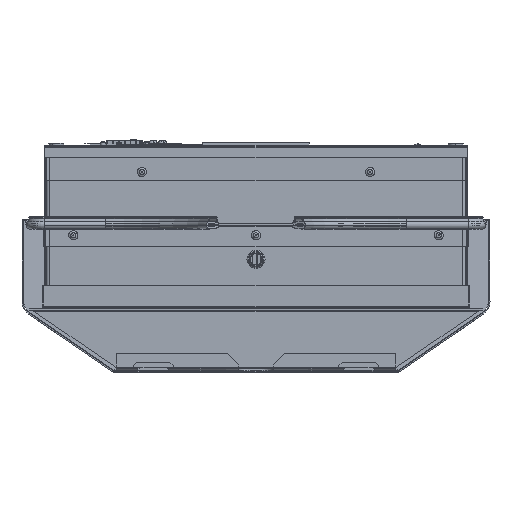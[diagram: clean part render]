
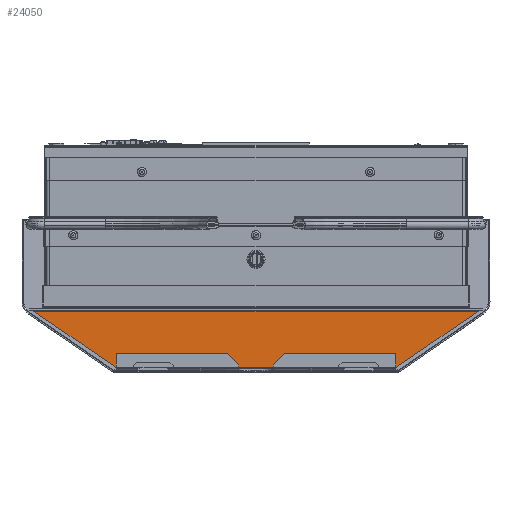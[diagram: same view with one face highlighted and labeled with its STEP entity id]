
A CAD part, front view. The second image highlights one B-rep face of the part: STEP entity #24050.
In plain terms, the highlighted planar face has unit normal (0, -1, 0).
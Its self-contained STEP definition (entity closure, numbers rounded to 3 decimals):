
#18108 = LINE ( 'NONE', #81659, #77395 ) ;
#18113 = LINE ( 'NONE', #81678, #77413 ) ;
#18118 = LINE ( 'NONE', #81691, #77427 ) ;
#18127 = LINE ( 'NONE', #81712, #77448 ) ;
#18129 = LINE ( 'NONE', #81719, #77454 ) ;
#18150 = LINE ( 'NONE', #81803, #77533 ) ;
#18153 = LINE ( 'NONE', #81815, #77539 ) ;
#18155 = LINE ( 'NONE', #81819, #77543 ) ;
#18156 = LINE ( 'NONE', #81821, #77546 ) ;
#18157 = LINE ( 'NONE', #81823, #77548 ) ;
#18158 = LINE ( 'NONE', #81825, #77550 ) ;
#18159 = LINE ( 'NONE', #81827, #77552 ) ;
#24050 = ADVANCED_FACE ( 'NONE', ( #57200 ), #25835, .F. ) ;
#25835 = PLANE ( 'NONE',  #64947 ) ;
#25836 = CARTESIAN_POINT ( 'NONE',  ( -36.278, 24.236, -80.642 ) ) ;
#25837 = DIRECTION ( 'NONE',  ( 0., 1., 0. ) ) ;
#25838 = DIRECTION ( 'NONE',  ( 1., 0., 0. ) ) ;
#39421 = CARTESIAN_POINT ( 'NONE',  ( -164.528, 24.236, -132.642 ) ) ;
#39423 = CARTESIAN_POINT ( 'NONE',  ( -304.528, 24.236, -132.642 ) ) ;
#39429 = CARTESIAN_POINT ( 'NONE',  ( -304.528, 24.236, -132.142 ) ) ;
#39434 = CARTESIAN_POINT ( 'NONE',  ( -344.528, 24.236, -132.142 ) ) ;
#39435 = CARTESIAN_POINT ( 'NONE',  ( -344.528, 24.236, -132.642 ) ) ;
#39442 = CARTESIAN_POINT ( 'NONE',  ( -357.028, 24.236, -132.642 ) ) ;
#39443 = CARTESIAN_POINT ( 'NONE',  ( -429.136, 24.236, -83.142 ) ) ;
#44448 = EDGE_LOOP ( 'NONE', ( #68092, #68094, #68093, #68096, #68095, #68097, #68098, #68099, #68101, #68102, #68100, #68104 ) ) ;
#57126 = EDGE_CURVE ( 'NONE', #91592, #91594, #18108, .T. ) ;
#57144 = EDGE_CURVE ( 'NONE', #91600, #91594, #18113, .T. ) ;
#57158 = EDGE_CURVE ( 'NONE', #91606, #91605, #18118, .T. ) ;
#57181 = EDGE_CURVE ( 'NONE', #91606, #91613, #18127, .T. ) ;
#57188 = EDGE_CURVE ( 'NONE', #91613, #91614, #18129, .T. ) ;
#57200 = FACE_OUTER_BOUND ( 'NONE', #44448, .T. ) ;
#57264 = EDGE_CURVE ( 'NONE', #91614, #61068, #18150, .T. ) ;
#57274 = EDGE_CURVE ( 'NONE', #61068, #61071, #18153, .T. ) ;
#57278 = EDGE_CURVE ( 'NONE', #61071, #61072, #18155, .T. ) ;
#57280 = EDGE_CURVE ( 'NONE', #61072, #61073, #18156, .T. ) ;
#57283 = EDGE_CURVE ( 'NONE', #91600, #91605, #18157, .T. ) ;
#57285 = EDGE_CURVE ( 'NONE', #61074, #91592, #18158, .T. ) ;
#57287 = EDGE_CURVE ( 'NONE', #61073, #61074, #18159, .T. ) ;
#61068 = VERTEX_POINT ( 'NONE', #83336 ) ;
#61071 = VERTEX_POINT ( 'NONE', #83339 ) ;
#61072 = VERTEX_POINT ( 'NONE', #83340 ) ;
#61073 = VERTEX_POINT ( 'NONE', #83341 ) ;
#61074 = VERTEX_POINT ( 'NONE', #83342 ) ;
#64947 = AXIS2_PLACEMENT_3D ( 'NONE', #25836, #25837, #25838 ) ;
#68092 = ORIENTED_EDGE ( 'NONE', *, *, #57280, .F. ) ;
#68093 = ORIENTED_EDGE ( 'NONE', *, *, #57274, .F. ) ;
#68094 = ORIENTED_EDGE ( 'NONE', *, *, #57278, .F. ) ;
#68095 = ORIENTED_EDGE ( 'NONE', *, *, #57188, .F. ) ;
#68096 = ORIENTED_EDGE ( 'NONE', *, *, #57264, .F. ) ;
#68097 = ORIENTED_EDGE ( 'NONE', *, *, #57181, .F. ) ;
#68098 = ORIENTED_EDGE ( 'NONE', *, *, #57158, .T. ) ;
#68099 = ORIENTED_EDGE ( 'NONE', *, *, #57283, .F. ) ;
#68100 = ORIENTED_EDGE ( 'NONE', *, *, #57285, .F. ) ;
#68101 = ORIENTED_EDGE ( 'NONE', *, *, #57144, .T. ) ;
#68102 = ORIENTED_EDGE ( 'NONE', *, *, #57126, .F. ) ;
#68104 = ORIENTED_EDGE ( 'NONE', *, *, #57287, .F. ) ;
#77395 = VECTOR ( 'NONE', #81660, 1000. ) ;
#77413 = VECTOR ( 'NONE', #81679, 1000. ) ;
#77427 = VECTOR ( 'NONE', #81692, 1000. ) ;
#77448 = VECTOR ( 'NONE', #81713, 1000. ) ;
#77454 = VECTOR ( 'NONE', #81720, 1000. ) ;
#77533 = VECTOR ( 'NONE', #81804, 1000. ) ;
#77539 = VECTOR ( 'NONE', #81816, 1000. ) ;
#77543 = VECTOR ( 'NONE', #81820, 1000. ) ;
#77546 = VECTOR ( 'NONE', #81822, 1000. ) ;
#77548 = VECTOR ( 'NONE', #81824, 1000. ) ;
#77550 = VECTOR ( 'NONE', #81826, 1000. ) ;
#77552 = VECTOR ( 'NONE', #81828, 1000. ) ;
#81659 = CARTESIAN_POINT ( 'NONE',  ( -357.028, 24.236, -132.642 ) ) ;
#81660 = DIRECTION ( 'NONE',  ( -1., 0., 0. ) ) ;
#81678 = CARTESIAN_POINT ( 'NONE',  ( -304.528, 24.236, -80.642 ) ) ;
#81679 = DIRECTION ( 'NONE',  ( 0., 0., -1. ) ) ;
#81691 = CARTESIAN_POINT ( 'NONE',  ( -344.528, 24.236, -80.642 ) ) ;
#81692 = DIRECTION ( 'NONE',  ( 0., 0., 1. ) ) ;
#81712 = CARTESIAN_POINT ( 'NONE',  ( -357.028, 24.236, -132.642 ) ) ;
#81713 = DIRECTION ( 'NONE',  ( -1., 0., 0. ) ) ;
#81719 = CARTESIAN_POINT ( 'NONE',  ( -432.778, 24.236, -80.642 ) ) ;
#81720 = DIRECTION ( 'NONE',  ( -0.824, 0., 0.566 ) ) ;
#81803 = CARTESIAN_POINT ( 'NONE',  ( -432.778, 24.236, -83.142 ) ) ;
#81804 = DIRECTION ( 'NONE',  ( 1., 0., 0. ) ) ;
#81815 = CARTESIAN_POINT ( 'NONE',  ( -36.278, 24.236, -80.642 ) ) ;
#81816 = DIRECTION ( 'NONE',  ( -0.824, 0., -0.566 ) ) ;
#81819 = CARTESIAN_POINT ( 'NONE',  ( -357.028, 24.236, -132.642 ) ) ;
#81820 = DIRECTION ( 'NONE',  ( -1., 0., 0. ) ) ;
#81821 = CARTESIAN_POINT ( 'NONE',  ( -124.528, 24.236, -80.642 ) ) ;
#81822 = DIRECTION ( 'NONE',  ( 0., 0., 1. ) ) ;
#81823 = CARTESIAN_POINT ( 'NONE',  ( -36.278, 24.236, -132.142 ) ) ;
#81824 = DIRECTION ( 'NONE',  ( -1., 0., 0. ) ) ;
#81825 = CARTESIAN_POINT ( 'NONE',  ( -164.528, 24.236, -80.642 ) ) ;
#81826 = DIRECTION ( 'NONE',  ( 0., 0., -1. ) ) ;
#81827 = CARTESIAN_POINT ( 'NONE',  ( -36.278, 24.236, -132.142 ) ) ;
#81828 = DIRECTION ( 'NONE',  ( -1., 0., 0. ) ) ;
#83336 = CARTESIAN_POINT ( 'NONE',  ( -39.92, 24.236, -83.142 ) ) ;
#83339 = CARTESIAN_POINT ( 'NONE',  ( -112.028, 24.236, -132.642 ) ) ;
#83340 = CARTESIAN_POINT ( 'NONE',  ( -124.528, 24.236, -132.642 ) ) ;
#83341 = CARTESIAN_POINT ( 'NONE',  ( -124.528, 24.236, -132.142 ) ) ;
#83342 = CARTESIAN_POINT ( 'NONE',  ( -164.528, 24.236, -132.142 ) ) ;
#91592 = VERTEX_POINT ( 'NONE', #39421 ) ;
#91594 = VERTEX_POINT ( 'NONE', #39423 ) ;
#91600 = VERTEX_POINT ( 'NONE', #39429 ) ;
#91605 = VERTEX_POINT ( 'NONE', #39434 ) ;
#91606 = VERTEX_POINT ( 'NONE', #39435 ) ;
#91613 = VERTEX_POINT ( 'NONE', #39442 ) ;
#91614 = VERTEX_POINT ( 'NONE', #39443 ) ;
